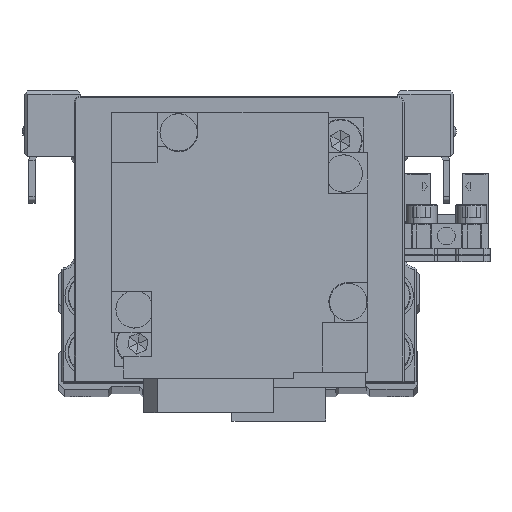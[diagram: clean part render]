
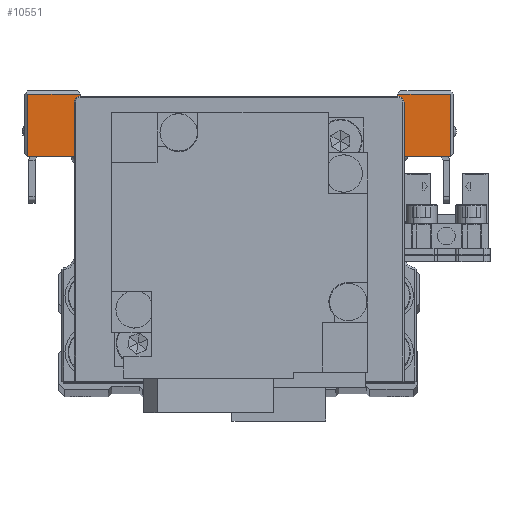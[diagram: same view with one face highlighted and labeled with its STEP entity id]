
A CAD part, top view. The second image highlights one B-rep face of the part: STEP entity #10551.
In plain terms, the highlighted planar face has unit normal (0, 0, 1) as drawn and (1, 0, 0) by its records, which use the part's own axes.
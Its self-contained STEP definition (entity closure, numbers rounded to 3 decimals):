
#575 = VECTOR ( 'NONE', #25064, 1000. ) ;
#595 = VECTOR ( 'NONE', #5368, 1000. ) ;
#798 = LINE ( 'NONE', #12003, #20757 ) ;
#826 = ORIENTED_EDGE ( 'NONE', *, *, #33531, .T. ) ;
#1823 = DIRECTION ( 'NONE',  ( 0., 0., -1. ) ) ;
#1950 = CARTESIAN_POINT ( 'NONE',  ( 25.5, 5., 16.5 ) ) ;
#2381 = ORIENTED_EDGE ( 'NONE', *, *, #19916, .F. ) ;
#2713 = LINE ( 'NONE', #13897, #575 ) ;
#3110 = CARTESIAN_POINT ( 'NONE',  ( 25.5, 5., -34. ) ) ;
#3221 = VECTOR ( 'NONE', #34613, 1000. ) ;
#4546 = VERTEX_POINT ( 'NONE', #7457 ) ;
#4558 = EDGE_CURVE ( 'NONE', #29436, #21485, #27063, .T. ) ;
#4884 = EDGE_CURVE ( 'NONE', #20002, #21227, #2713, .T. ) ;
#4924 = LINE ( 'NONE', #16119, #14836 ) ;
#5368 = DIRECTION ( 'NONE',  ( 0., -0.707, -0.707 ) ) ;
#5388 = DIRECTION ( 'NONE',  ( 0., 0., 1. ) ) ;
#5694 = CARTESIAN_POINT ( 'NONE',  ( 25.5, 10.5, 25.5 ) ) ;
#6008 = ORIENTED_EDGE ( 'NONE', *, *, #25222, .F. ) ;
#6076 = ORIENTED_EDGE ( 'NONE', *, *, #20736, .T. ) ;
#6366 = VERTEX_POINT ( 'NONE', #9117 ) ;
#7457 = CARTESIAN_POINT ( 'NONE',  ( 25.5, 15., 34. ) ) ;
#7609 = VERTEX_POINT ( 'NONE', #20302 ) ;
#7934 = VERTEX_POINT ( 'NONE', #13684 ) ;
#8075 = CARTESIAN_POINT ( 'NONE',  ( 25.5, 5., -16.5 ) ) ;
#8134 = PLANE ( 'NONE',  #30436 ) ;
#8320 = CARTESIAN_POINT ( 'NONE',  ( 25.5, 10.5, -25.5 ) ) ;
#8956 = LINE ( 'NONE', #20144, #20148 ) ;
#9117 = CARTESIAN_POINT ( 'NONE',  ( 25.5, 10.5, 25.5 ) ) ;
#9219 = CARTESIAN_POINT ( 'NONE',  ( 25.5, 15., -25.5 ) ) ;
#9669 = CARTESIAN_POINT ( 'NONE',  ( 25.5, -6., 16.5 ) ) ;
#10164 = LINE ( 'NONE', #21359, #10260 ) ;
#10260 = VECTOR ( 'NONE', #32547, 1000. ) ;
#10356 = VERTEX_POINT ( 'NONE', #28917 ) ;
#10551 = ADVANCED_FACE ( 'NONE', ( #33249 ), #8134, .F. ) ;
#10700 = CARTESIAN_POINT ( 'NONE',  ( 25.5, 5., 34. ) ) ;
#11252 = VECTOR ( 'NONE', #19260, 1000. ) ;
#11989 = VECTOR ( 'NONE', #21881, 1000. ) ;
#12003 = CARTESIAN_POINT ( 'NONE',  ( 25.5, -6., -16.2 ) ) ;
#12245 = LINE ( 'NONE', #23429, #3221 ) ;
#12862 = VECTOR ( 'NONE', #13147, 1000. ) ;
#12906 = EDGE_CURVE ( 'NONE', #6366, #7934, #8956, .T. ) ;
#13048 = ORIENTED_EDGE ( 'NONE', *, *, #12906, .F. ) ;
#13147 = DIRECTION ( 'NONE',  ( 0., -1., 0. ) ) ;
#13150 = VECTOR ( 'NONE', #16879, 1000. ) ;
#13684 = CARTESIAN_POINT ( 'NONE',  ( 25.5, 10.5, -25.5 ) ) ;
#13715 = EDGE_CURVE ( 'NONE', #10356, #29436, #12245, .T. ) ;
#13897 = CARTESIAN_POINT ( 'NONE',  ( 25.5, 5., -34. ) ) ;
#14828 = EDGE_CURVE ( 'NONE', #21485, #7609, #19305, .T. ) ;
#14836 = VECTOR ( 'NONE', #27298, 1000. ) ;
#15425 = CARTESIAN_POINT ( 'NONE',  ( 25.5, -6., -16.2 ) ) ;
#15767 = LINE ( 'NONE', #26940, #17386 ) ;
#16119 = CARTESIAN_POINT ( 'NONE',  ( 25.5, 15., -25.5 ) ) ;
#16616 = EDGE_CURVE ( 'NONE', #6366, #24735, #30813, .T. ) ;
#16635 = CARTESIAN_POINT ( 'NONE',  ( 25.5, 15., 25.5 ) ) ;
#16879 = DIRECTION ( 'NONE',  ( 0., 1., 0. ) ) ;
#17386 = VECTOR ( 'NONE', #1823, 1000. ) ;
#17697 = VECTOR ( 'NONE', #19523, 1000. ) ;
#18371 = ORIENTED_EDGE ( 'NONE', *, *, #31384, .T. ) ;
#18502 = EDGE_LOOP ( 'NONE', ( #23695, #18371, #6076, #33785, #28285, #35238, #23612, #18585, #2381, #826, #27902, #23666, #6008, #13048 ) ) ;
#18585 = ORIENTED_EDGE ( 'NONE', *, *, #20498, .T. ) ;
#19260 = DIRECTION ( 'NONE',  ( 0., -1., 0. ) ) ;
#19305 = LINE ( 'NONE', #30483, #595 ) ;
#19321 = CARTESIAN_POINT ( 'NONE',  ( 25.5, 5., -16.5 ) ) ;
#19523 = DIRECTION ( 'NONE',  ( 0., 1., 0. ) ) ;
#19916 = EDGE_CURVE ( 'NONE', #20743, #34821, #33193, .T. ) ;
#20002 = VERTEX_POINT ( 'NONE', #3110 ) ;
#20144 = CARTESIAN_POINT ( 'NONE',  ( 25.5, 10.5, -25.5 ) ) ;
#20148 = VECTOR ( 'NONE', #31332, 1000. ) ;
#20302 = CARTESIAN_POINT ( 'NONE',  ( 25.5, -6., 16.2 ) ) ;
#20498 = EDGE_CURVE ( 'NONE', #28563, #34821, #798, .T. ) ;
#20650 = CARTESIAN_POINT ( 'NONE',  ( 25.5, 5., 16.5 ) ) ;
#20736 = EDGE_CURVE ( 'NONE', #4546, #10356, #35807, .T. ) ;
#20743 = VERTEX_POINT ( 'NONE', #33071 ) ;
#20757 = VECTOR ( 'NONE', #23184, 1000. ) ;
#20854 = DIRECTION ( 'NONE',  ( 0., 0., 1. ) ) ;
#21227 = VERTEX_POINT ( 'NONE', #30437 ) ;
#21359 = CARTESIAN_POINT ( 'NONE',  ( 25.5, 15., 34. ) ) ;
#21485 = VERTEX_POINT ( 'NONE', #21598 ) ;
#21598 = CARTESIAN_POINT ( 'NONE',  ( 25.5, -5.7, 16.5 ) ) ;
#21881 = DIRECTION ( 'NONE',  ( 0., -1., 0. ) ) ;
#23184 = DIRECTION ( 'NONE',  ( 0., 0.707, -0.707 ) ) ;
#23213 = EDGE_CURVE ( 'NONE', #28563, #7609, #34782, .T. ) ;
#23429 = CARTESIAN_POINT ( 'NONE',  ( 25.5, 5., -34.5 ) ) ;
#23612 = ORIENTED_EDGE ( 'NONE', *, *, #23213, .F. ) ;
#23666 = ORIENTED_EDGE ( 'NONE', *, *, #34412, .T. ) ;
#23695 = ORIENTED_EDGE ( 'NONE', *, *, #16616, .T. ) ;
#23935 = CARTESIAN_POINT ( 'NONE',  ( 25.5, -5.7, -16.5 ) ) ;
#24012 = VERTEX_POINT ( 'NONE', #9219 ) ;
#24735 = VERTEX_POINT ( 'NONE', #16635 ) ;
#25064 = DIRECTION ( 'NONE',  ( 0., 1., 0. ) ) ;
#25222 = EDGE_CURVE ( 'NONE', #7934, #24012, #33434, .T. ) ;
#26940 = CARTESIAN_POINT ( 'NONE',  ( 25.5, 5., -34.5 ) ) ;
#27063 = LINE ( 'NONE', #1950, #12862 ) ;
#27298 = DIRECTION ( 'NONE',  ( 0., 0., 1. ) ) ;
#27902 = ORIENTED_EDGE ( 'NONE', *, *, #4884, .T. ) ;
#28285 = ORIENTED_EDGE ( 'NONE', *, *, #4558, .T. ) ;
#28563 = VERTEX_POINT ( 'NONE', #15425 ) ;
#28917 = CARTESIAN_POINT ( 'NONE',  ( 25.5, 5., 34. ) ) ;
#29436 = VERTEX_POINT ( 'NONE', #20650 ) ;
#30436 = AXIS2_PLACEMENT_3D ( 'NONE', #19321, #30497, #5388 ) ;
#30437 = CARTESIAN_POINT ( 'NONE',  ( 25.5, 15., -34. ) ) ;
#30483 = CARTESIAN_POINT ( 'NONE',  ( 25.5, -6., 16.2 ) ) ;
#30497 = DIRECTION ( 'NONE',  ( -1., 0., 0. ) ) ;
#30550 = VECTOR ( 'NONE', #20854, 1000. ) ;
#30813 = LINE ( 'NONE', #5694, #13150 ) ;
#31332 = DIRECTION ( 'NONE',  ( 0., 0., -1. ) ) ;
#31384 = EDGE_CURVE ( 'NONE', #24735, #4546, #10164, .T. ) ;
#32547 = DIRECTION ( 'NONE',  ( 0., 0., 1. ) ) ;
#33071 = CARTESIAN_POINT ( 'NONE',  ( 25.5, 5., -16.5 ) ) ;
#33193 = LINE ( 'NONE', #8075, #11252 ) ;
#33249 = FACE_OUTER_BOUND ( 'NONE', #18502, .T. ) ;
#33434 = LINE ( 'NONE', #8320, #17697 ) ;
#33531 = EDGE_CURVE ( 'NONE', #20743, #20002, #15767, .T. ) ;
#33785 = ORIENTED_EDGE ( 'NONE', *, *, #13715, .T. ) ;
#34412 = EDGE_CURVE ( 'NONE', #21227, #24012, #4924, .T. ) ;
#34613 = DIRECTION ( 'NONE',  ( 0., 0., -1. ) ) ;
#34782 = LINE ( 'NONE', #9669, #30550 ) ;
#34821 = VERTEX_POINT ( 'NONE', #23935 ) ;
#35238 = ORIENTED_EDGE ( 'NONE', *, *, #14828, .T. ) ;
#35807 = LINE ( 'NONE', #10700, #11989 ) ;
